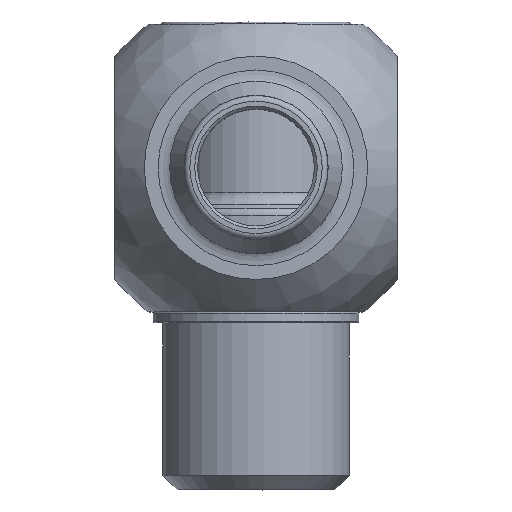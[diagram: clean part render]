
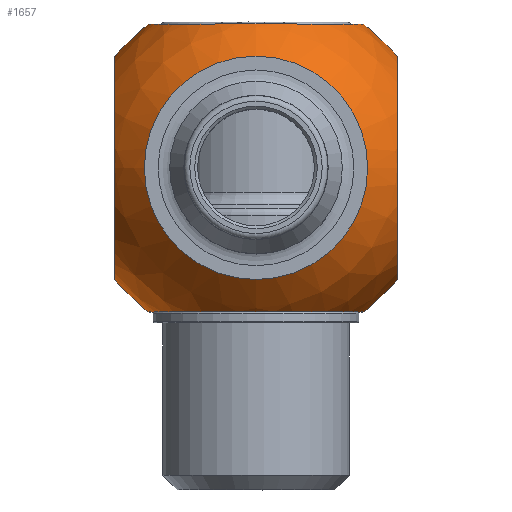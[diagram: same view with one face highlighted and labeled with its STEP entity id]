
A CAD part, top view. The second image highlights one B-rep face of the part: STEP entity #1657.
In plain terms, the highlighted spherical face has radius 15.875 mm.
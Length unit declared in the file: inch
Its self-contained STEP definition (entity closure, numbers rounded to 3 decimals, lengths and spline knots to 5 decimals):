
#38=SPHERICAL_SURFACE('',#1908,0.625);
#65=FACE_BOUND('',#372,.T.);
#66=FACE_BOUND('',#373,.T.);
#268=FACE_OUTER_BOUND('',#371,.T.);
#371=EDGE_LOOP('',(#1362,#1363,#1364,#1365,#1366,#1367,#1368,#1369,#1370));
#372=EDGE_LOOP('',(#1371));
#373=EDGE_LOOP('',(#1372));
#427=CIRCLE('',#1735,0.38798);
#428=CIRCLE('',#1736,0.38798);
#484=CIRCLE('',#1813,0.375);
#501=CIRCLE('',#1836,0.375);
#546=CIRCLE('',#1901,0.38798);
#547=CIRCLE('',#1903,0.38798);
#548=CIRCLE('',#1904,0.38798);
#549=CIRCLE('',#1906,0.49);
#550=CIRCLE('',#1907,0.49);
#551=CIRCLE('',#1909,0.625);
#626=VERTEX_POINT('',#2685);
#627=VERTEX_POINT('',#2686);
#678=VERTEX_POINT('',#2862);
#693=VERTEX_POINT('',#2902);
#728=VERTEX_POINT('',#3007);
#729=VERTEX_POINT('',#3008);
#730=VERTEX_POINT('',#3012);
#731=VERTEX_POINT('',#3013);
#732=VERTEX_POINT('',#3015);
#814=EDGE_CURVE('',#626,#627,#427,.T.);
#815=EDGE_CURVE('',#627,#626,#428,.T.);
#883=EDGE_CURVE('',#678,#678,#484,.T.);
#902=EDGE_CURVE('',#693,#693,#501,.T.);
#952=EDGE_CURVE('',#728,#729,#546,.T.);
#954=EDGE_CURVE('',#730,#731,#547,.T.);
#956=EDGE_CURVE('',#731,#732,#548,.T.);
#957=EDGE_CURVE('',#732,#728,#549,.T.);
#958=EDGE_CURVE('',#729,#730,#550,.T.);
#959=EDGE_CURVE('',#627,#731,#551,.T.);
#1362=ORIENTED_EDGE('',*,*,#814,.T.);
#1363=ORIENTED_EDGE('',*,*,#959,.T.);
#1364=ORIENTED_EDGE('',*,*,#956,.T.);
#1365=ORIENTED_EDGE('',*,*,#957,.T.);
#1366=ORIENTED_EDGE('',*,*,#952,.T.);
#1367=ORIENTED_EDGE('',*,*,#958,.T.);
#1368=ORIENTED_EDGE('',*,*,#954,.T.);
#1369=ORIENTED_EDGE('',*,*,#959,.F.);
#1370=ORIENTED_EDGE('',*,*,#815,.T.);
#1371=ORIENTED_EDGE('',*,*,#883,.T.);
#1372=ORIENTED_EDGE('',*,*,#902,.T.);
#1657=ADVANCED_FACE('',(#268,#65,#66),#38,.T.);
#1735=AXIS2_PLACEMENT_3D('',#2687,#2048,#2049);
#1736=AXIS2_PLACEMENT_3D('',#2688,#2050,#2051);
#1813=AXIS2_PLACEMENT_3D('',#2863,#2213,#2214);
#1836=AXIS2_PLACEMENT_3D('',#2903,#2261,#2262);
#1901=AXIS2_PLACEMENT_3D('',#3009,#2396,#2397);
#1903=AXIS2_PLACEMENT_3D('',#3014,#2401,#2402);
#1904=AXIS2_PLACEMENT_3D('',#3017,#2404,#2405);
#1906=AXIS2_PLACEMENT_3D('',#3019,#2408,#2409);
#1907=AXIS2_PLACEMENT_3D('',#3020,#2410,#2411);
#1908=AXIS2_PLACEMENT_3D('',#3021,#2412,#2413);
#1909=AXIS2_PLACEMENT_3D('',#3022,#2414,#2415);
#2048=DIRECTION('center_axis',(0.,0.,-1.));
#2049=DIRECTION('ref_axis',(1.,0.,0.));
#2050=DIRECTION('center_axis',(0.,0.,-1.));
#2051=DIRECTION('ref_axis',(1.,0.,0.));
#2213=DIRECTION('center_axis',(0.,1.,0.));
#2214=DIRECTION('ref_axis',(0.,0.,-1.));
#2261=DIRECTION('center_axis',(0.,-1.,0.));
#2262=DIRECTION('ref_axis',(0.,0.,1.));
#2396=DIRECTION('center_axis',(-1.,0.,0.));
#2397=DIRECTION('ref_axis',(0.,0.,-1.));
#2401=DIRECTION('center_axis',(1.,0.,0.));
#2402=DIRECTION('ref_axis',(0.,0.,1.));
#2404=DIRECTION('center_axis',(1.,0.,0.));
#2405=DIRECTION('ref_axis',(0.,0.,1.));
#2408=DIRECTION('center_axis',(0.,-1.,0.));
#2409=DIRECTION('ref_axis',(1.,0.,0.));
#2410=DIRECTION('center_axis',(0.,1.,0.));
#2411=DIRECTION('ref_axis',(1.,0.,0.));
#2412=DIRECTION('center_axis',(0.,0.,1.));
#2413=DIRECTION('ref_axis',(1.,0.,0.));
#2414=DIRECTION('center_axis',(0.,-1.,0.));
#2415=DIRECTION('ref_axis',(-1.,0.,0.));
#2685=CARTESIAN_POINT('',(0.,0.38798,0.49));
#2686=CARTESIAN_POINT('',(-0.38798,0.,0.49));
#2687=CARTESIAN_POINT('Origin',(0.,0.,0.49));
#2688=CARTESIAN_POINT('Origin',(0.,0.,0.49));
#2862=CARTESIAN_POINT('',(0.,-0.5,0.375));
#2863=CARTESIAN_POINT('Origin',(0.,-0.5,0.));
#2902=CARTESIAN_POINT('',(0.,0.5,-0.375));
#2903=CARTESIAN_POINT('Origin',(0.,0.5,0.));
#3007=CARTESIAN_POINT('',(0.49,-0.38798,0.));
#3008=CARTESIAN_POINT('',(0.49,0.38798,0.));
#3009=CARTESIAN_POINT('Origin',(0.49,0.,0.));
#3012=CARTESIAN_POINT('',(-0.49,0.38798,0.));
#3013=CARTESIAN_POINT('',(-0.49,0.,0.38798));
#3014=CARTESIAN_POINT('Origin',(-0.49,0.,0.));
#3015=CARTESIAN_POINT('',(-0.49,-0.38798,0.));
#3017=CARTESIAN_POINT('Origin',(-0.49,0.,0.));
#3019=CARTESIAN_POINT('Origin',(0.,-0.38798,0.));
#3020=CARTESIAN_POINT('Origin',(0.,0.38798,0.));
#3021=CARTESIAN_POINT('Origin',(0.,0.,0.));
#3022=CARTESIAN_POINT('Origin',(0.,0.,0.));
